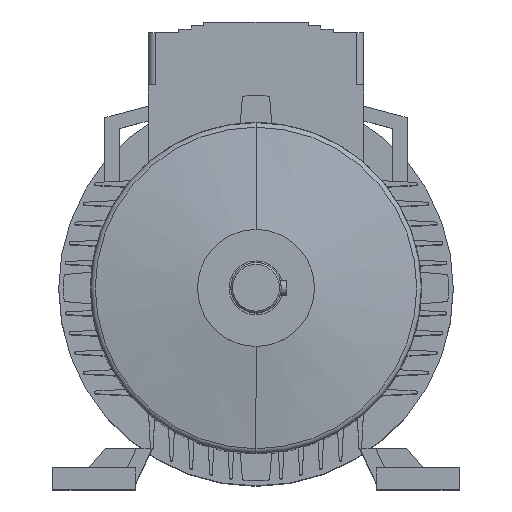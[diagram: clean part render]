
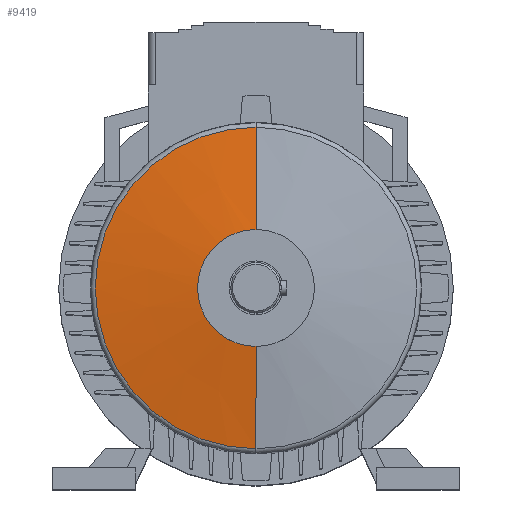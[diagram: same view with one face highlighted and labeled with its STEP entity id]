
A CAD part, top view. The second image highlights one B-rep face of the part: STEP entity #9419.
In plain terms, the highlighted conical face has half-angle 82 degrees and reference radius 60.959 mm.
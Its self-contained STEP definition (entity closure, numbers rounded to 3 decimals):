
#3093=CARTESIAN_POINT('',(0.,0.,20.001));
#3094=DIRECTION('',(0.,0.,1.));
#3095=DIRECTION('',(0.,1.,0.));
#3096=AXIS2_PLACEMENT_3D('',#3093,#3094,#3095);
#3108=DIRECTION('',(0.,-0.99,0.139));
#3109=VECTOR('',#3108,57.477);
#3110=CARTESIAN_POINT('',(0.,89.418,
20.001));
#3111=LINE('',#3110,#3109);
#3112=DIRECTION('',(0.,0.99,0.139));
#3113=VECTOR('',#3112,57.477);
#3114=CARTESIAN_POINT('',(0.,-89.418,
20.001));
#3115=LINE('',#3114,#3113);
#3144=CARTESIAN_POINT('',(0.,0.,28.));
#3145=DIRECTION('',(0.,0.,1.));
#3146=DIRECTION('',(0.,1.,0.));
#3147=AXIS2_PLACEMENT_3D('',#3144,#3145,#3146);
#3921=CARTESIAN_POINT('',(0.,32.5,28.));
#3923=VERTEX_POINT('',#3921);
#3929=CARTESIAN_POINT('',(0.,-32.5,28.));
#3931=VERTEX_POINT('',#3929);
#3998=CARTESIAN_POINT('',(0.,89.418,
20.001));
#3999=CARTESIAN_POINT('',(0.,-89.418,
20.001));
#4000=VERTEX_POINT('',#3998);
#4001=VERTEX_POINT('',#3999);
#9405=CARTESIAN_POINT('',(0.,0.,24.));
#9406=DIRECTION('',(0.,0.,-1.));
#9407=DIRECTION('',(0.,-1.,0.));
#9408=AXIS2_PLACEMENT_3D('',#9405,#9406,#9407);
#9409=CONICAL_SURFACE('',#9408,60.959,82.);
#9410=ORIENTED_EDGE('',*,*,#9395,.F.);
#9412=ORIENTED_EDGE('',*,*,#9411,.T.);
#9414=ORIENTED_EDGE('',*,*,#9413,.T.);
#9416=ORIENTED_EDGE('',*,*,#9415,.F.);
#9417=EDGE_LOOP('',(#9410,#9412,#9414,#9416));
#9418=FACE_OUTER_BOUND('',#9417,.F.);
#9419=ADVANCED_FACE('',(#9418),#9409,.T.);
#3097=CIRCLE('',#3096,89.418);
#3148=CIRCLE('',#3147,32.5);
#9395=EDGE_CURVE('',#4000,#4001,#3097,.T.);
#9411=EDGE_CURVE('',#4000,#3923,#3111,.T.);
#9413=EDGE_CURVE('',#3923,#3931,#3148,.T.);
#9415=EDGE_CURVE('',#4001,#3931,#3115,.T.);
